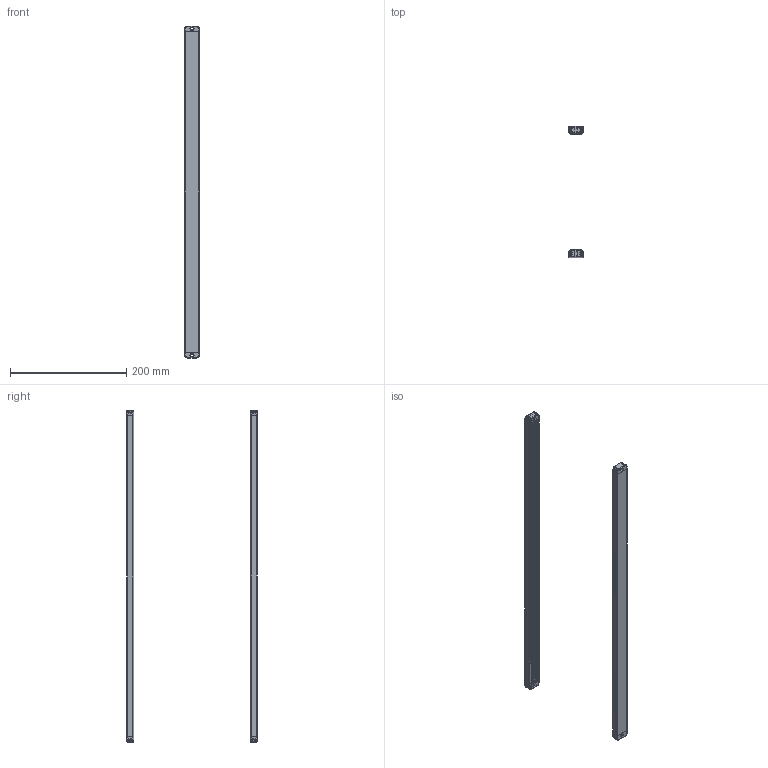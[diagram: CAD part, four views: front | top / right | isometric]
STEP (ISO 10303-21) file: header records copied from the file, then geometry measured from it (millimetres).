
FILE_DESCRIPTION (( 'STEP AP203' ), '1' );
FILE_NAME ('ZDB2820-550.STEP', '2022-08-31T03:15:15', ( 'Windows 蚚誧' ), ( 'Organization' ), 'SwSTEP 2.0', 'SolidWorks 2020', '' );
FILE_SCHEMA (( 'CONFIG_CONTROL_DESIGN' ));
Length unit declared in the file: millimetre
Products named in the file (4): ZDB2820-550; 傷裔衵; 傷裔酘諉彶; 媼啃3臏倰第
Assembly tree (6 placements, depth 2):
  ZDB2820-550
    傷裔衵  x2
    傷裔酘諉彶  x2
    媼啃3臏倰第  x2
Bounding box: 25 x 224 x 570 mm (x, y, z)
Volume: 110608.1 mm3; surface area: 177558.5 mm2
Topology: 6 solids, 6 shells, 650 faces, 1758 edges, 1124 vertices
Faces by surface type: plane 406, cylinder 188, torus 32, bspline 16, sphere 8
Entity records: 11427 total; most frequent: CARTESIAN_POINT 2721, ORIENTED_EDGE 1750, DIRECTION 1687, EDGE_CURVE 875, VECTOR 631, LINE 631, VERTEX_POINT 562, AXIS2_PLACEMENT_3D 528
